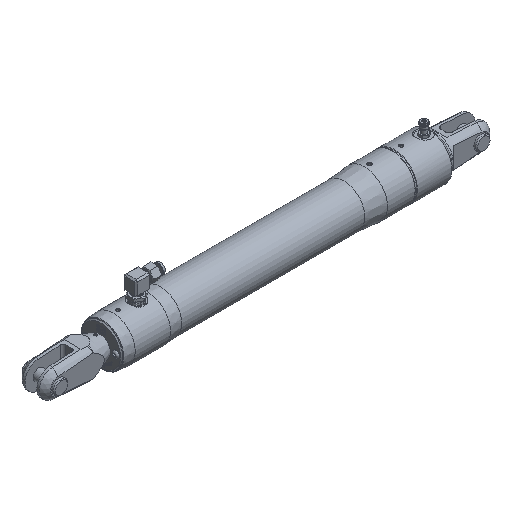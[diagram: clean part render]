
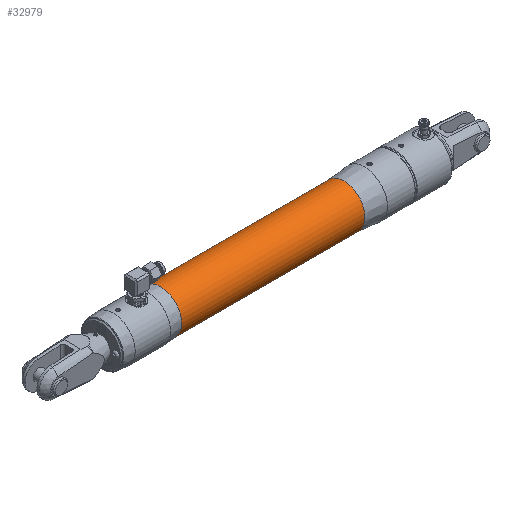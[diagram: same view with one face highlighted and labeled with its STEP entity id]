
A CAD part, isometric view. The second image highlights one B-rep face of the part: STEP entity #32979.
In plain terms, the highlighted cylindrical face has radius 29.2 mm (diameter 58.4 mm), a full revolution.
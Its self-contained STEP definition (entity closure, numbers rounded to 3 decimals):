
#3452=FACE_OUTER_BOUND('',#5249,.T.);
#5249=EDGE_LOOP('',(#22323,#22324,#22325,#22326,#22327,#22328));
#7208=LINE('',#44098,#10179);
#10179=VECTOR('',#37208,29.2);
#13102=CIRCLE('',#34957,29.2);
#13103=CIRCLE('',#34958,29.2);
#13105=CIRCLE('',#34961,29.2);
#13106=CIRCLE('',#34962,29.2);
#13702=VERTEX_POINT('',#44090);
#13703=VERTEX_POINT('',#44092);
#13704=VERTEX_POINT('',#44097);
#13705=VERTEX_POINT('',#44099);
#17053=EDGE_CURVE('',#13703,#13702,#13102,.T.);
#17054=EDGE_CURVE('',#13702,#13703,#13103,.T.);
#17056=EDGE_CURVE('',#13702,#13704,#7208,.T.);
#17057=EDGE_CURVE('',#13705,#13704,#13105,.T.);
#17058=EDGE_CURVE('',#13704,#13705,#13106,.T.);
#22323=ORIENTED_EDGE('',*,*,#17053,.T.);
#22324=ORIENTED_EDGE('',*,*,#17056,.T.);
#22325=ORIENTED_EDGE('',*,*,#17057,.F.);
#22326=ORIENTED_EDGE('',*,*,#17058,.F.);
#22327=ORIENTED_EDGE('',*,*,#17056,.F.);
#22328=ORIENTED_EDGE('',*,*,#17054,.T.);
#30954=CYLINDRICAL_SURFACE('',#34960,29.2);
#32979=ADVANCED_FACE('',(#3452),#30954,.T.);
#34957=AXIS2_PLACEMENT_3D('',#44093,#37200,#37201);
#34958=AXIS2_PLACEMENT_3D('',#44094,#37202,#37203);
#34960=AXIS2_PLACEMENT_3D('',#44096,#37206,#37207);
#34961=AXIS2_PLACEMENT_3D('',#44100,#37209,#37210);
#34962=AXIS2_PLACEMENT_3D('',#44101,#37211,#37212);
#37200=DIRECTION('center_axis',(1.,0.,0.));
#37201=DIRECTION('ref_axis',(0.,0.,-1.));
#37202=DIRECTION('center_axis',(1.,0.,0.));
#37203=DIRECTION('ref_axis',(0.,0.,-1.));
#37206=DIRECTION('center_axis',(1.,0.,0.));
#37207=DIRECTION('ref_axis',(0.,0.,
1.));
#37208=DIRECTION('',(1.,0.,0.));
#37209=DIRECTION('center_axis',(1.,0.,0.));
#37210=DIRECTION('ref_axis',(0.,0.,-1.));
#37211=DIRECTION('center_axis',(1.,0.,0.));
#37212=DIRECTION('ref_axis',(0.,0.,-1.));
#44090=CARTESIAN_POINT('',(-310.734,0.,-29.2));
#44092=CARTESIAN_POINT('',(-310.734,0.,29.2));
#44093=CARTESIAN_POINT('Origin',(-310.734,0.,
0.));
#44094=CARTESIAN_POINT('Origin',(-310.734,0.,
0.));
#44096=CARTESIAN_POINT('Origin',(-184.068,0.,
0.));
#44097=CARTESIAN_POINT('',(-57.402,0.,-29.2));
#44098=CARTESIAN_POINT('',(-184.068,0.,-29.2));
#44099=CARTESIAN_POINT('',(-57.402,0.,29.2));
#44100=CARTESIAN_POINT('Origin',(-57.402,0.,
0.));
#44101=CARTESIAN_POINT('Origin',(-57.402,0.,
0.));
